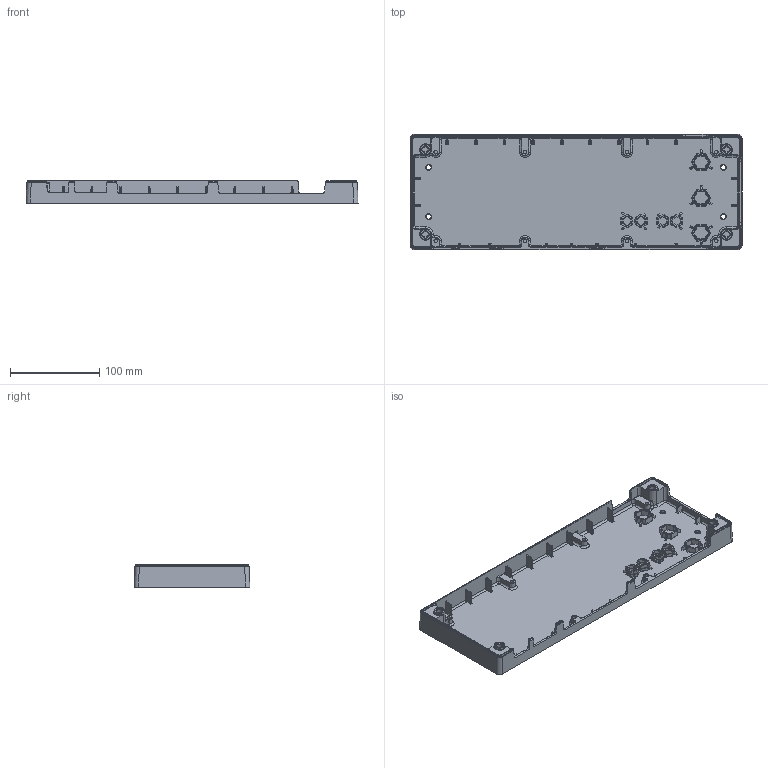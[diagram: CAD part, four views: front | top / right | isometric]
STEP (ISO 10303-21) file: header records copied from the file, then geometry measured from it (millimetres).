
FILE_DESCRIPTION(/* description */ (''),/* implementation_level */ '2;1');
FILE_NAME(/* name */ 'MAXI-BackpanelV2.step',/* time_stamp */ '2024-05-02T11:11:14+09:30',/* author */ (''),/* organization */ (''),/* preprocessor_version */ 'ST-DEVELOPER v20',/* originating_system */ 'Autodesk Translation Framework v12.20.1.177',/* authorisation */ '');
FILE_SCHEMA (('AUTOMOTIVE_DESIGN { 1 0 10303 214 3 1 1 }'));
Products named in the file (5): (Unsaved); SwitchMasterMAXI v2 - Flat Back v2; SwitchMasterMAXI V2 - Final v1; SwitchMaster Back Housing Insert Subassembly; 100-004 Rev.3, Back Housing Plate
Assembly tree (4 placements, depth 5):
  (Unsaved)
    SwitchMasterMAXI v2 - Flat Back v2
      SwitchMasterMAXI V2 - Final v1
        SwitchMaster Back Housing Insert Subassembly
          100-004 Rev.3, Back Housing Plate
Bounding box: 371.59 x 129.59 x 24.8 mm (x, y, z)
Volume: 195960.6 mm3; surface area: 145664.1 mm2
Topology: 1 solids, 1 shells, 2668 faces, 6226 edges, 3496 vertices
Faces by surface type: cylinder 1016, bspline 846, plane 491, sphere 205, torus 80, cone 30
Full cylindrical faces by diameter (mm): 4 x8, 6.4 x4
Entity records: 104780 total; most frequent: CARTESIAN_POINT 47675, ORIENTED_EDGE 12276, DIRECTION 11984, EDGE_CURVE 6138, AXIS2_PLACEMENT_3D 4817, VERTEX_POINT 3496, EDGE_LOOP 2700, FACE_OUTER_BOUND 2668
